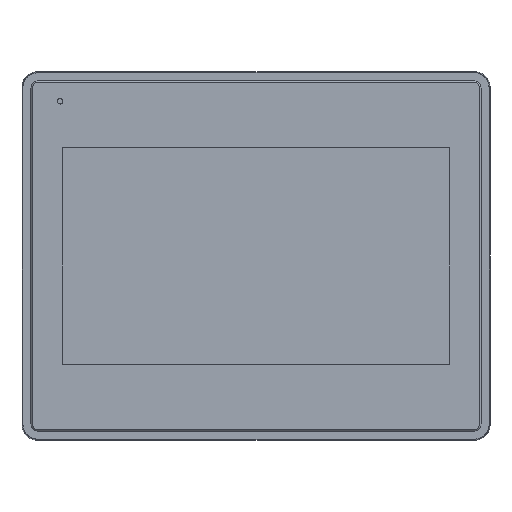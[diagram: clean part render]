
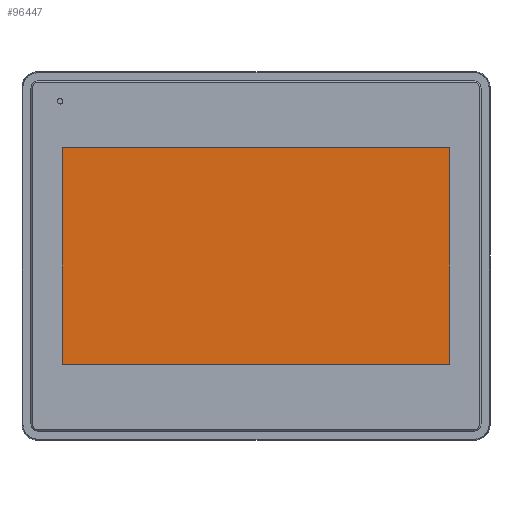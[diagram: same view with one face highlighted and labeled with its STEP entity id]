
A CAD part, top view. The second image highlights one B-rep face of the part: STEP entity #96447.
In plain terms, the highlighted planar face has unit normal (0, 0, 1).
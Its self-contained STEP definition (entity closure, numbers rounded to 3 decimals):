
#2687 = VERTEX_POINT ( 'NONE', #79576 ) ;
#8805 = VECTOR ( 'NONE', #65780, 1000. ) ;
#18145 = LINE ( 'NONE', #55221, #67626 ) ;
#18769 = DIRECTION ( 'NONE',  ( -1., 0., 0. ) ) ;
#20329 = VECTOR ( 'NONE', #66101, 1000. ) ;
#22617 = AXIS2_PLACEMENT_3D ( 'NONE', #91249, #88837, #109468 ) ;
#23472 = VECTOR ( 'NONE', #43096, 1000. ) ;
#28736 = CARTESIAN_POINT ( 'NONE',  ( -34.113, 52.517, 18.8 ) ) ;
#42496 = VERTEX_POINT ( 'NONE', #62466 ) ;
#42592 = EDGE_CURVE ( 'NONE', #42496, #48560, #49490, .T. ) ;
#43096 = DIRECTION ( 'NONE',  ( 0., 1., 0. ) ) ;
#46675 = CARTESIAN_POINT ( 'NONE',  ( -189.323, 52.517, 18.8 ) ) ;
#48560 = VERTEX_POINT ( 'NONE', #89513 ) ;
#49490 = LINE ( 'NONE', #46675, #20329 ) ;
#55221 = CARTESIAN_POINT ( 'NONE',  ( -189.323, -34.403, 18.8 ) ) ;
#60527 = EDGE_CURVE ( 'NONE', #48560, #2687, #63400, .T. ) ;
#62463 = ORIENTED_EDGE ( 'NONE', *, *, #42592, .F. ) ;
#62466 = CARTESIAN_POINT ( 'NONE',  ( -189.323, 52.517, 18.8 ) ) ;
#63140 = CARTESIAN_POINT ( 'NONE',  ( -189.323, 52.517, 18.8 ) ) ;
#63400 = LINE ( 'NONE', #28736, #8805 ) ;
#65780 = DIRECTION ( 'NONE',  ( 0., -1., 0. ) ) ;
#66101 = DIRECTION ( 'NONE',  ( 1., 0., 0. ) ) ;
#67626 = VECTOR ( 'NONE', #18769, 1000. ) ;
#71661 = CARTESIAN_POINT ( 'NONE',  ( -189.323, -34.403, 18.8 ) ) ;
#79576 = CARTESIAN_POINT ( 'NONE',  ( -34.113, -34.403, 18.8 ) ) ;
#80526 = VERTEX_POINT ( 'NONE', #71661 ) ;
#81027 = EDGE_LOOP ( 'NONE', ( #106399, #100930, #87711, #62463 ) ) ;
#81522 = FACE_OUTER_BOUND ( 'NONE', #81027, .T. ) ;
#87711 = ORIENTED_EDGE ( 'NONE', *, *, #60527, .F. ) ;
#88837 = DIRECTION ( 'NONE',  ( 0., 0., 1. ) ) ;
#89513 = CARTESIAN_POINT ( 'NONE',  ( -34.113, 52.517, 18.8 ) ) ;
#91249 = CARTESIAN_POINT ( 'NONE',  ( -189.113, 52.317, 18.8 ) ) ;
#96447 = ADVANCED_FACE ( 'NONE', ( #81522 ), #118556, .T. ) ;
#99821 = EDGE_CURVE ( 'NONE', #2687, #80526, #18145, .T. ) ;
#100930 = ORIENTED_EDGE ( 'NONE', *, *, #99821, .F. ) ;
#106399 = ORIENTED_EDGE ( 'NONE', *, *, #115809, .F. ) ;
#109468 = DIRECTION ( 'NONE',  ( 1., 0., 0. ) ) ;
#115809 = EDGE_CURVE ( 'NONE', #80526, #42496, #118990, .T. ) ;
#118556 = PLANE ( 'NONE',  #22617 ) ;
#118990 = LINE ( 'NONE', #63140, #23472 ) ;
